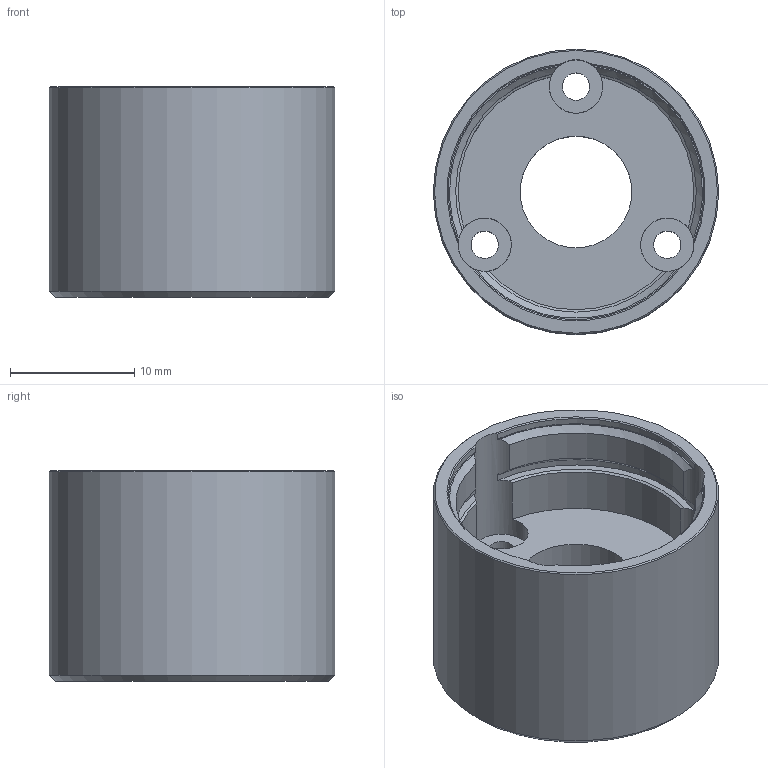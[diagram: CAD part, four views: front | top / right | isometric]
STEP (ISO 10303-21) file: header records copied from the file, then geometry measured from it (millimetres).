
FILE_DESCRIPTION(/* description */ (''),/* implementation_level */ '2;1');
FILE_NAME(/* name */ '23-1_flange_c.stp',/* time_stamp */ '2016-09-06T15:11:00+02:00',/* author */ ('DR. FRITZ FAULHABER GmbH & Co. KG'),/* organization */ ('DR. FRITZ FAULHABER GmbH & Co. KG'),/* preprocessor_version */ 'ST-DEVELOPER v16',/* originating_system */ 'SIEMENS PLM Software NX 10.0',/* authorisation */ '');
FILE_SCHEMA (('AUTOMOTIVE_DESIGN { 1 0 10303 214 3 1 1 1 }'));
Length unit declared in the file: millimetre
Products named in the file (1): F0200011861_G
Bounding box: 23 x 23 x 17 mm (x, y, z)
Volume: 3792.4 mm3; surface area: 2893.1 mm2
Topology: 1 solids, 1 shells, 50 faces, 193 edges, 193 vertices
Faces by surface type: cylinder 20, plane 15, cone 15
Full cylindrical faces by diameter (mm): 2.2 x3, 4.3 x3, 9 x1, 23 x1
Entity records: 2165 total; most frequent: CARTESIAN_POINT 468, DIRECTION 350, ORIENTED_EDGE 248, AXIS2_PLACEMENT_3D 163, EDGE_CURVE 124, CIRCLE 112, VERTEX_POINT 88, EDGE_LOOP 70
